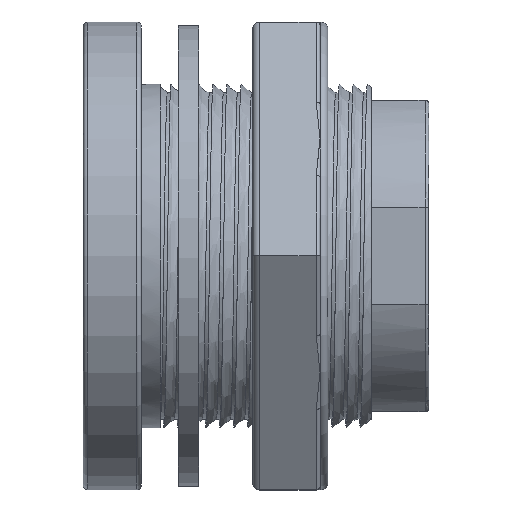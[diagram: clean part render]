
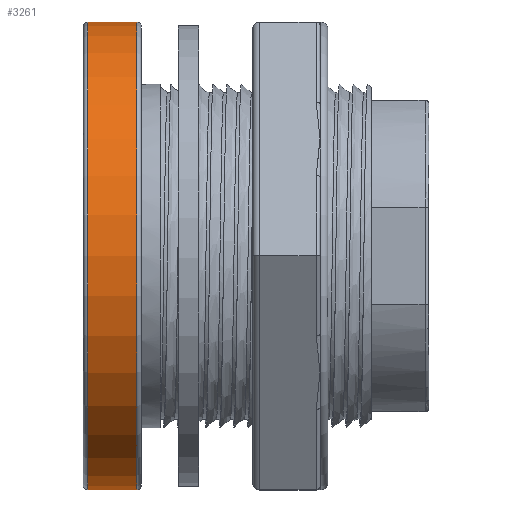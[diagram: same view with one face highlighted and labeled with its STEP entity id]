
A CAD part, top view. The second image highlights one B-rep face of the part: STEP entity #3261.
In plain terms, the highlighted cylindrical face has radius 76.2 mm (diameter 152.4 mm), a full revolution.
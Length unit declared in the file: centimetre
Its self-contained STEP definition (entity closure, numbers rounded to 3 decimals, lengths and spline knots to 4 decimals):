
#778=CYLINDRICAL_SURFACE('',#3539,7.62);
#1131=VERTEX_POINT('',#87413);
#1132=VERTEX_POINT('',#87416);
#1330=CIRCLE('',#3538,7.62);
#1331=CIRCLE('',#3540,7.62);
#1650=EDGE_CURVE('',#1131,#1131,#1330,.T.);
#1651=EDGE_CURVE('',#1132,#1132,#1331,.T.);
#2318=ORIENTED_EDGE('',*,*,#1651,.F.);
#2319=ORIENTED_EDGE('',*,*,#1650,.F.);
#2793=EDGE_LOOP('',(#2318));
#2794=EDGE_LOOP('',(#2319));
#3038=FACE_BOUND('',#2793,.T.);
#3039=FACE_BOUND('',#2794,.T.);
#3261=ADVANCED_FACE('',(#3038,#3039),#778,.T.);
#3538=AXIS2_PLACEMENT_3D('',#87412,#4114,#4115);
#3539=AXIS2_PLACEMENT_3D('',#87414,#4116,#4117);
#3540=AXIS2_PLACEMENT_3D('',#87415,#4118,#4119);
#4114=DIRECTION('',(-1.,0.,0.));
#4115=DIRECTION('',(0.,0.,-7.62));
#4116=DIRECTION('',(1.,0.,0.));
#4117=DIRECTION('',(0.,0.,7.62));
#4118=DIRECTION('',(1.,0.,0.));
#4119=DIRECTION('',(0.,0.,-7.62));
#87412=CARTESIAN_POINT('',(-11.1252,0.,0.));
#87413=CARTESIAN_POINT('',(-11.1252,0.,7.62));
#87414=CARTESIAN_POINT('',(-11.2776,0.,0.));
#87415=CARTESIAN_POINT('',(-9.525,0.,0.));
#87416=CARTESIAN_POINT('',(-9.525,0.,7.62));
